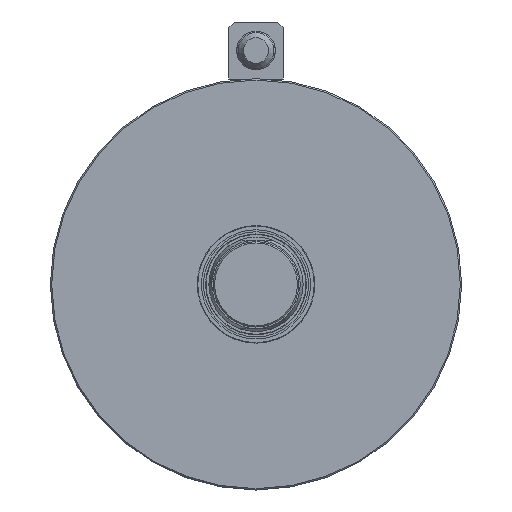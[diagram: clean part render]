
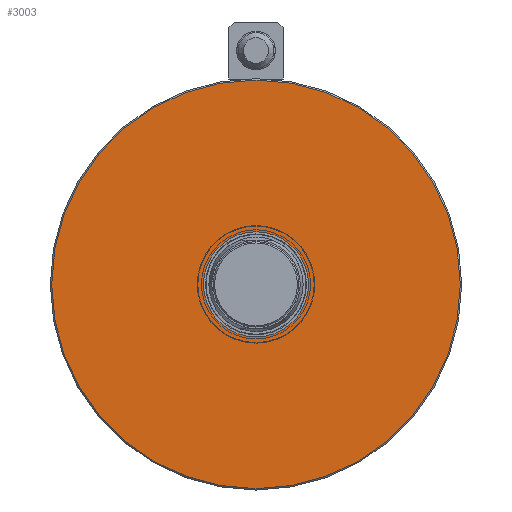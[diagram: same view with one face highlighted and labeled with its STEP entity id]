
A CAD part, left-side view. The second image highlights one B-rep face of the part: STEP entity #3003.
In plain terms, the highlighted planar face has unit normal (-1, 0, 0).
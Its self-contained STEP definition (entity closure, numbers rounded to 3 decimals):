
#148=FACE_BOUND('',#573,.T.);
#210=PLANE('',#3318);
#353=FACE_OUTER_BOUND('',#572,.T.);
#572=EDGE_LOOP('',(#2243));
#573=EDGE_LOOP('',(#2244));
#1123=CIRCLE('',#3319,75.8);
#1124=CIRCLE('',#3320,19.5);
#1330=VERTEX_POINT('',#5093);
#1331=VERTEX_POINT('',#5095);
#1648=EDGE_CURVE('',#1330,#1330,#1123,.T.);
#1649=EDGE_CURVE('',#1331,#1331,#1124,.T.);
#2243=ORIENTED_EDGE('',*,*,#1648,.F.);
#2244=ORIENTED_EDGE('',*,*,#1649,.T.);
#3003=ADVANCED_FACE('',(#353,#148),#210,.F.);
#3318=AXIS2_PLACEMENT_3D('',#5092,#3975,#3976);
#3319=AXIS2_PLACEMENT_3D('',#5094,#3977,#3978);
#3320=AXIS2_PLACEMENT_3D('',#5096,#3979,#3980);
#3975=DIRECTION('center_axis',(1.,0.,0.));
#3976=DIRECTION('ref_axis',(0.,0.,1.));
#3977=DIRECTION('center_axis',(1.,0.,0.));
#3978=DIRECTION('ref_axis',(0.,1.,0.));
#3979=DIRECTION('center_axis',(1.,0.,0.));
#3980=DIRECTION('ref_axis',(0.,0.,-1.));
#5092=CARTESIAN_POINT('Origin',(-389.75,0.,
0.));
#5093=CARTESIAN_POINT('',(-389.75,-75.8,0.));
#5094=CARTESIAN_POINT('Origin',(-389.75,0.,0.));
#5095=CARTESIAN_POINT('',(-389.75,0.,19.5));
#5096=CARTESIAN_POINT('Origin',(-389.75,0.,0.));
